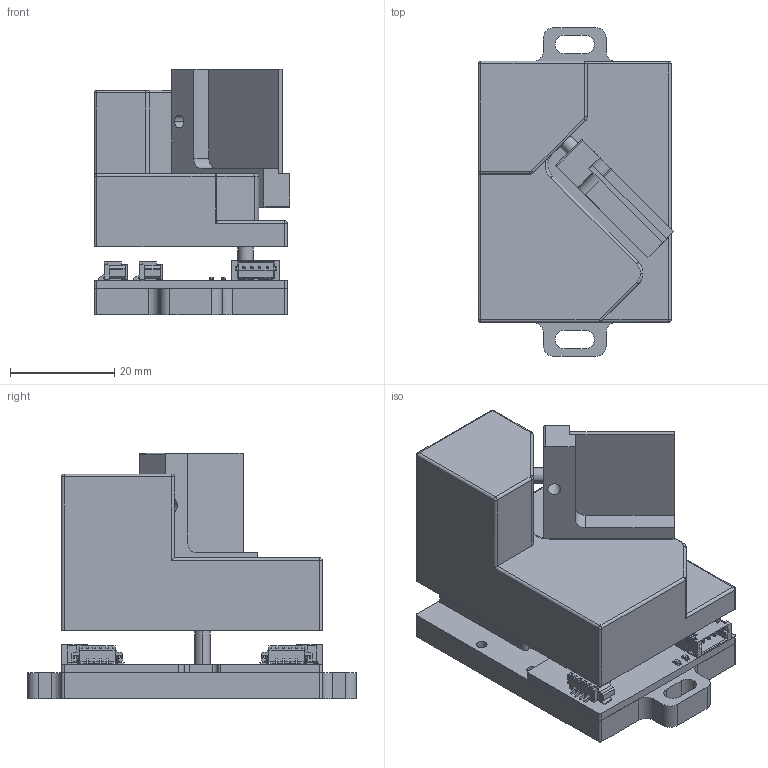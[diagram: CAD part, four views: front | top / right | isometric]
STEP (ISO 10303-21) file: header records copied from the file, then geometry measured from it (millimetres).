
FILE_DESCRIPTION (( 'STEP AP214' ), '1' );
FILE_NAME ('DT-3750.STEP', '2026-01-27T12:25:38', ( 'Windows 蚚誧' ), ( '' ), 'SwSTEP 2.0', 'SolidWorks 2020', '' );
FILE_SCHEMA (( 'AUTOMOTIVE_DESIGN' ));
Length unit declared in the file: millimetre
Products named in the file (1): DT-3750
Bounding box: 37.49 x 63 x 47 mm (x, y, z)
Surface area: 19764.7 mm2 (no closed solid volume)
Topology: 0 solids, 86 shells, 1979 faces, 5145 edges, 3334 vertices
Faces by surface type: plane 1311, bspline 282, cylinder 246, torus 101, cone 32, sphere 7
Entity records: 85356 total; most frequent: CARTESIAN_POINT 15755, ORIENTED_EDGE 10272, DIRECTION 8649, EDGE_CURVE 5138, LINE 3833, VECTOR 3833, VERTEX_POINT 3334, AXIS2_PLACEMENT_3D 2408
